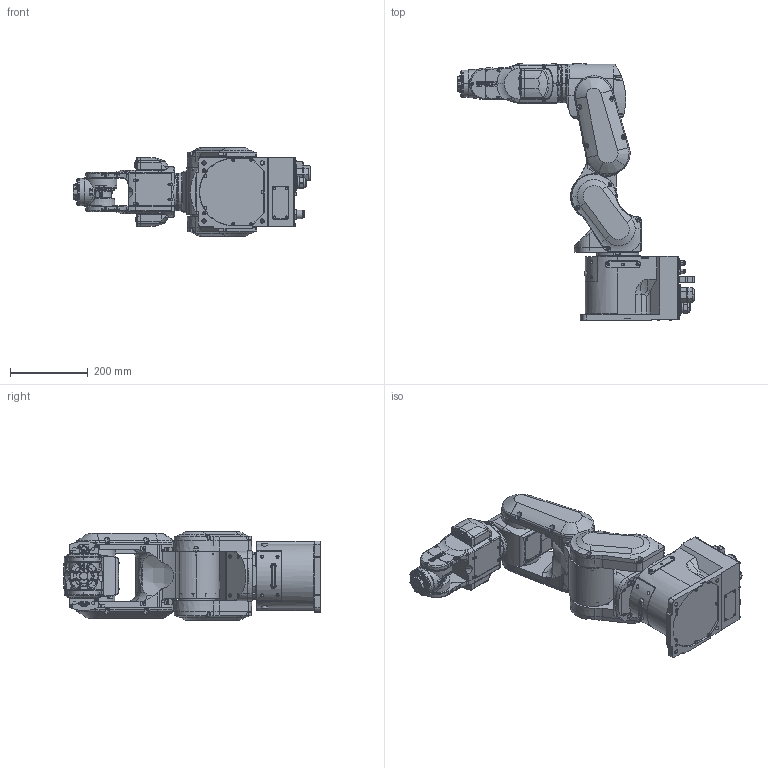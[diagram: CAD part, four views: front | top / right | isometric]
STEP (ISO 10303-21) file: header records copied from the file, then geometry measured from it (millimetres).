
FILE_DESCRIPTION (( 'STEP AP214' ), '1' );
FILE_NAME ('CX4-x601C.STEP', '2026-07-23T16:48:28', ( '' ), ( '' ), 'SwSTEP 2.0', 'SolidWorks 2020', '' );
FILE_SCHEMA (( 'AUTOMOTIVE_DESIGN' ));
Length unit declared in the file: millimetre
Products named in the file (8): CX4-x601C; CX4-A601C_J6; CX4-A601C_J1; CX4-A601C_J2; CX4-A601C_J5; CX4-A601C_J3; CX4-A601C_BASE; CX4-A601C_J4
Assembly tree (7 placements, depth 2):
  CX4-x601C
    CX4-A601C_BASE
    CX4-A601C_J1
    CX4-A601C_J2
    CX4-A601C_J3
    CX4-A601C_J4
    CX4-A601C_J5
    CX4-A601C_J6
Bounding box: 613 x 662 x 228 mm (x, y, z)
Volume: 9409374.7 mm3; surface area: 1038717.3 mm2
Topology: 5 solids, 8 shells, 4062 faces, 10217 edges, 6375 vertices
Faces by surface type: plane 1510, cylinder 1370, cone 736, torus 314, sphere 70, bspline 62
Entity records: 184512 total; most frequent: CARTESIAN_POINT 73159, ORIENTED_EDGE 20116, DIRECTION 15854, EDGE_CURVE 10065, AXIS2_PLACEMENT_3D 6475, VERTEX_POINT 6375, B_SPLINE_CURVE_WITH_KNOTS 4680, EDGE_LOOP 4451
